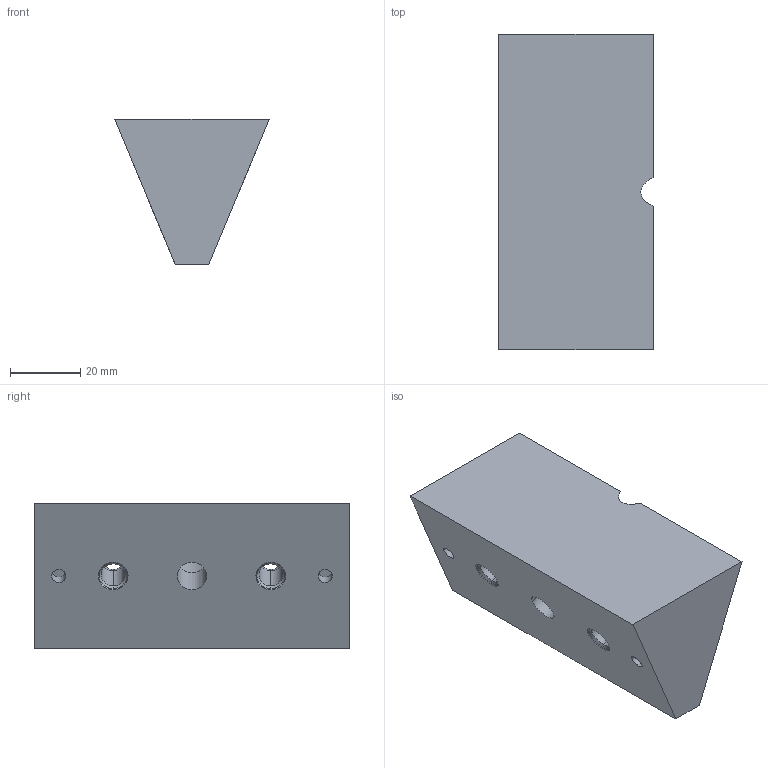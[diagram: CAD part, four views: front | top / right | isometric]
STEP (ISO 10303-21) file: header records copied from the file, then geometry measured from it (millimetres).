
FILE_DESCRIPTION((''),'2;1');
FILE_NAME('GIA4590','2002-12-27T',('Lipro doo'),('Lipro d.o.o.'),'PRO/ENGINEER BY PARAMETRIC TECHNOLOGY CORPORATION, 2001150','PRO/ENGINEER BY PARAMETRIC TECHNOLOGY CORPORATION, 2001150','');
FILE_SCHEMA(('CONFIG_CONTROL_DESIGN'));
Length unit declared in the file: millimetre
Products named in the file (1): GIA4590
Bounding box: 44 x 90 x 41.57 mm (x, y, z)
Volume: 93829.5 mm3; surface area: 18647.2 mm2
Topology: 1 solids, 5 shells, 49 faces, 121 edges, 80 vertices
Faces by surface type: cylinder 24, plane 13, cone 12
Entity records: 1588 total; most frequent: CARTESIAN_POINT 339, DIRECTION 269, ORIENTED_EDGE 226, EDGE_CURVE 121, AXIS2_PLACEMENT_3D 112, VERTEX_POINT 80, CIRCLE 62, EDGE_LOOP 61
